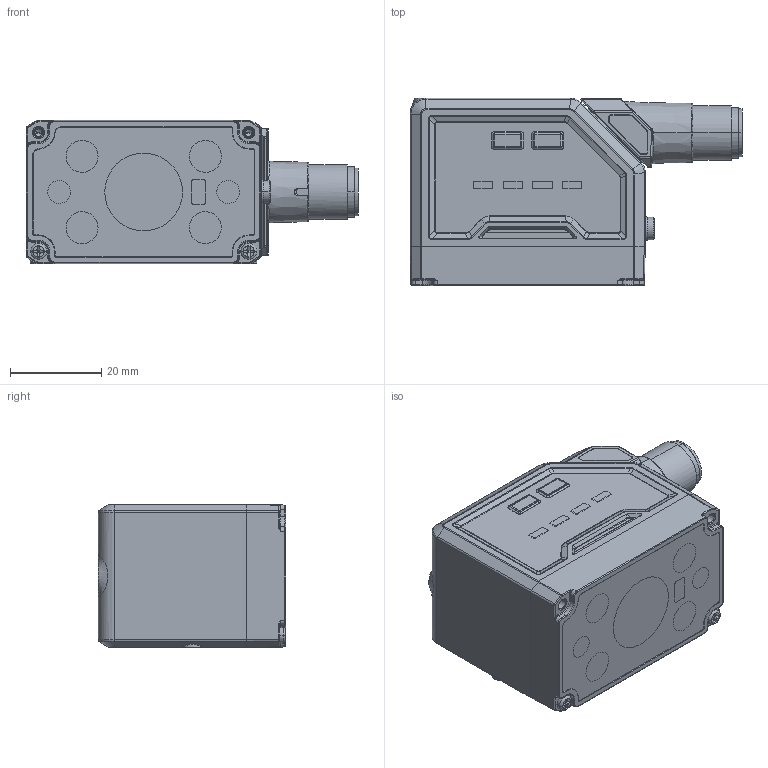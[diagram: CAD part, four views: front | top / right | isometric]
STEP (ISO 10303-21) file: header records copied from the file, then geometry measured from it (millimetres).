
FILE_DESCRIPTION((''),'2;1');
FILE_NAME('PRT0001','2025-06-13T14:42:58',('yangxiaobing6'),(''),'CREO PARAMETRIC BY PTC INC, 2020044','CREO PARAMETRIC BY PTC INC, 2020044','');
FILE_SCHEMA(('CONFIG_CONTROL_DESIGN','SHAPE_APPEARANCE_LAYERS_GROUPS'));
Products named in the file (1): PRT0001
Bounding box: 72.67 x 41 x 31.5 mm (x, y, z)
Volume: 63607.8 mm3; surface area: 23107.1 mm2
Topology: 1 solids, 42 shells, 2353 faces, 5906 edges, 3692 vertices
Faces by surface type: plane 789, cylinder 776, cone 318, bspline 239, torus 198, extrusion 21, sphere 12
Entity records: 92165 total; most frequent: CARTESIAN_POINT 34322, ORIENTED_EDGE 11462, DIRECTION 11008, EDGE_CURVE 5857, AXIS2_PLACEMENT_3D 4148, VERTEX_POINT 3690, VECTOR 2712, LINE 2691
